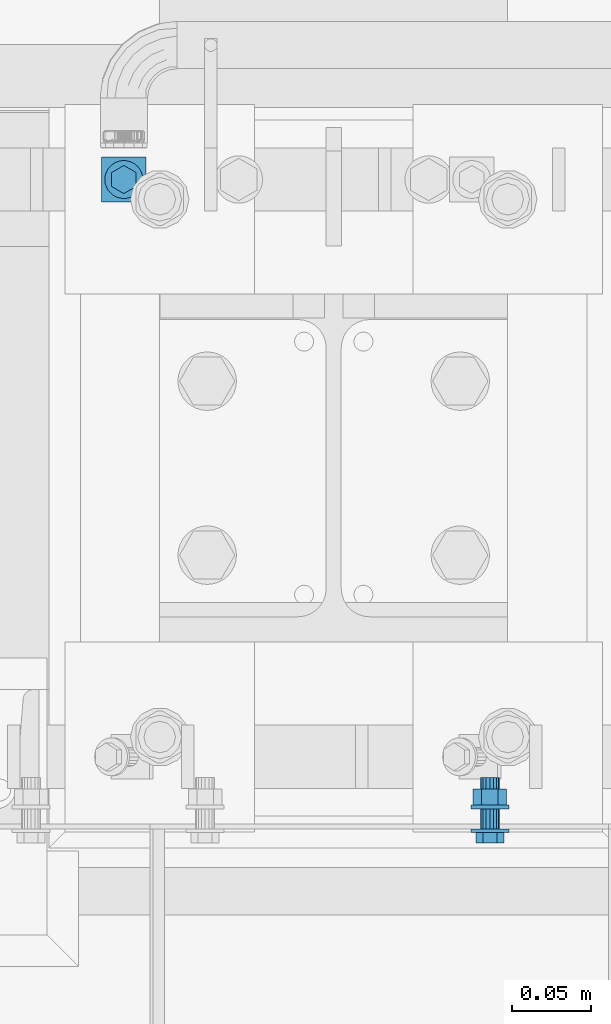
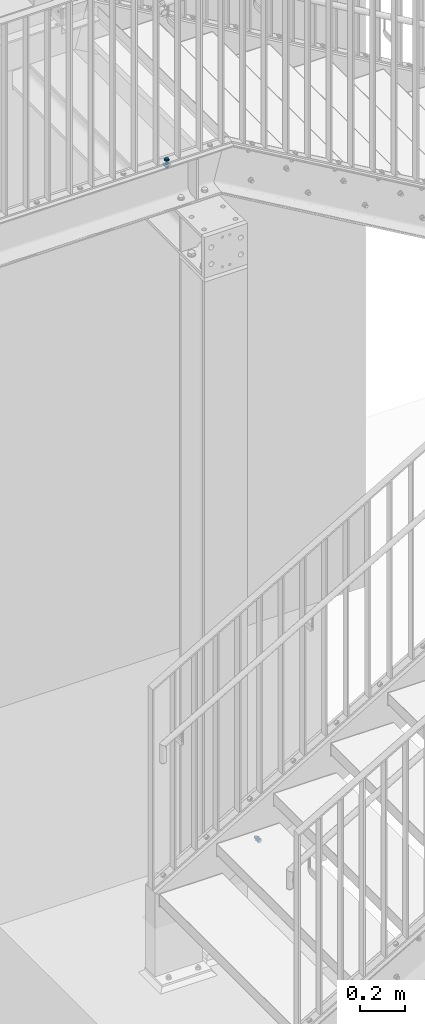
# One storey, part 60 of 145: 2 mechanical fasteners.
"""IFC2X3 building model written with IfcOpenShell, lengths in millimetres."""

from ifc_helpers import new_model, entity, si_unit, converted_unit, origin_with_axes, place, context, project, spatial, faceted_brep, element, save


model = new_model("IFC2X3")

# Units and contexts
model_context = context("Model", 3, precision=1e-09, world=origin_with_axes())
ifc_project = project(units=[si_unit("LENGTHUNIT", "METRE", prefix="MILLI"), si_unit("AREAUNIT", "SQUARE_METRE"), si_unit("VOLUMEUNIT", "CUBIC_METRE"), converted_unit("PLANEANGLEUNIT", "DEGREE", entity("IfcPlaneAngleMeasure", 0.01745329), si_unit("PLANEANGLEUNIT", "RADIAN"), dimensions=[0, 0, 0, 0, 0, 0, 0])], contexts=[model_context])

# Site, building, storey
site_placement = place(None, origin_with_axes())
site = spatial("IfcSite", under=ifc_project, at=site_placement, Name="BZ1 Grund- und Mittelschule 85716 Unterschlei?heim", CompositionType="ELEMENT")
building_placement = place(site_placement, origin_with_axes())
building = spatial("IfcBuilding", under=site, at=building_placement, Name="Struktur 1", CompositionType="ELEMENT")
storey_placement = place(building_placement, origin_with_axes())
storey = spatial("IfcBuildingStorey", under=building, at=storey_placement, Name="Default Storey", CompositionType="ELEMENT", Elevation=0.0)

# Mechanical fasteners
mechanical_fastener_1_placement = place(None, origin_with_axes())
element("IfcMechanicalFastener", 1, at=mechanical_fastener_1_placement, inside=storey, ObjectType="-", NominalDiameter=12.0, NominalLength=45.0, context=model_context, shape_type="Brep", body=[
    faceted_brep([(16950.141490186, -1512.502, 3308.000000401), (16950.141490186, -1512.502, 3310.500000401), (16949.910913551, -1514.843083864, 3310.500000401), (16949.910913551, -1514.843083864, 3308.000000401), (16949.228044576, -1517.094201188, 3310.500000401), (16949.228044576, -1517.094201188, 3308.000000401), (16948.119125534, -1519.168842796, 3310.500000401), (16948.119125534, -1519.168842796, 3308.000000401), (16946.62677156, -1520.987281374, 3310.500000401), (16946.62677156, -1520.987281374, 3308.000000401), (16944.808332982, -1522.479635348, 3310.500000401), (16944.808332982, -1522.479635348, 3308.000000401), (16942.733691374, -1523.58855439, 3310.500000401), (16942.733691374, -1523.58855439, 3308.000000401), (16940.48257405, -1524.271423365, 3310.500000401), (16940.48257405, -1524.271423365, 3308.000000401), (16938.141490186, -1524.502, 3310.500000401), (16938.141490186, -1524.502, 3308.000000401), (16935.800406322, -1524.271423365, 3310.500000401), (16935.800406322, -1524.271423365, 3308.000000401), (16933.549288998, -1523.58855439, 3310.500000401), (16933.549288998, -1523.58855439, 3308.000000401), (16931.47464739, -1522.479635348, 3310.500000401), (16931.47464739, -1522.479635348, 3308.000000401), (16929.656208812, -1520.987281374, 3310.500000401), (16929.656208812, -1520.987281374, 3308.000000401), (16928.163854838, -1519.168842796, 3310.500000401), (16928.163854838, -1519.168842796, 3308.000000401), (16927.054935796, -1517.094201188, 3310.500000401), (16927.054935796, -1517.094201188, 3308.000000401), (16926.372066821, -1514.843083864, 3310.500000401), (16926.372066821, -1514.843083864, 3308.000000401), (16926.141490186, -1512.502, 3310.500000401), (16926.141490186, -1512.502, 3308.000000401), (16926.372066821, -1510.160916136, 3310.500000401), (16926.372066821, -1510.160916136, 3308.000000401), (16927.054935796, -1507.909798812, 3310.500000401), (16927.054935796, -1507.909798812, 3308.000000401), (16928.163854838, -1505.835157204, 3310.500000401), (16928.163854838, -1505.835157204, 3308.000000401), (16929.656208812, -1504.016718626, 3310.500000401), (16929.656208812, -1504.016718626, 3308.000000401), (16931.47464739, -1502.524364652, 3310.500000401), (16931.47464739, -1502.524364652, 3308.000000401), (16933.549288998, -1501.41544561, 3310.500000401), (16933.549288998, -1501.41544561, 3308.000000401), (16935.800406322, -1500.732576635, 3310.500000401), (16935.800406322, -1500.732576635, 3308.000000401), (16938.141490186, -1500.502, 3310.500000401), (16938.141490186, -1500.502, 3308.000000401), (16940.48257405, -1500.732576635, 3310.500000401), (16940.48257405, -1500.732576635, 3308.000000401), (16942.733691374, -1501.41544561, 3310.500000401), (16942.733691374, -1501.41544561, 3308.000000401), (16944.808332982, -1502.524364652, 3310.500000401), (16944.808332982, -1502.524364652, 3308.000000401), (16946.62677156, -1504.016718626, 3310.500000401), (16946.62677156, -1504.016718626, 3308.000000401), (16948.119125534, -1505.835157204, 3310.500000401), (16948.119125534, -1505.835157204, 3308.000000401), (16949.228044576, -1507.909798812, 3310.500000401), (16949.228044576, -1507.909798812, 3308.000000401), (16949.910913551, -1510.160916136, 3310.500000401), (16949.910913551, -1510.160916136, 3308.000000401)], [[[0, 1, 2, 3]], [[3, 2, 4, 5]], [[5, 4, 6, 7]], [[7, 6, 8, 9]], [[9, 8, 10, 11]], [[11, 10, 12, 13]], [[13, 12, 14, 15]], [[15, 14, 16, 17]], [[17, 16, 18, 19]], [[19, 18, 20, 21]], [[21, 20, 22, 23]], [[23, 22, 24, 25]], [[25, 24, 26, 27]], [[27, 26, 28, 29]], [[29, 28, 30, 31]], [[31, 30, 32, 33]], [[33, 32, 34, 35]], [[35, 34, 36, 37]], [[37, 36, 38, 39]], [[39, 38, 40, 41]], [[41, 40, 42, 43]], [[43, 42, 44, 45]], [[45, 44, 46, 47]], [[47, 46, 48, 49]], [[49, 48, 50, 51]], [[51, 50, 52, 53]], [[53, 52, 54, 55]], [[55, 54, 56, 57]], [[57, 56, 58, 59]], [[59, 58, 60, 61]], [[61, 60, 62, 63]], [[63, 62, 1, 0]], [[2, 1, 62, 60, 58, 56, 54, 52, 50, 48, 46, 44, 42, 40, 38, 36, 34, 32, 30, 28, 26, 24, 22, 20, 18, 16, 14, 12, 10, 8, 6, 4]], [[63, 0, 3, 5, 7, 9, 11, 13, 15, 17, 19, 21, 23, 25, 27, 29, 31, 33, 35, 37, 39, 41, 43, 45, 47, 49, 51, 53, 55, 57, 59, 61]]]),
    faceted_brep([(16930.446854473, -1516.9445, 3316.900000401), (16930.446854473, -1516.9445, 3310.500000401), (16938.141490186, -1521.387, 3310.500000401), (16938.141490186, -1521.387, 3316.900000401), (16945.836125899, -1516.9445, 3310.500000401), (16945.836125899, -1516.9445, 3316.900000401), (16945.836125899, -1508.0595, 3310.500000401), (16945.836125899, -1508.0595, 3316.900000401), (16938.141490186, -1503.617, 3310.500000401), (16938.141490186, -1503.617, 3316.900000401), (16930.446854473, -1508.0595, 3310.500000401), (16930.446854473, -1508.0595, 3316.900000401)], [[[0, 1, 2, 3]], [[3, 2, 4, 5]], [[5, 4, 6, 7]], [[7, 6, 8, 9]], [[9, 8, 10, 11]], [[11, 10, 1, 0]], [[3, 5, 7, 9, 11, 0]], [[2, 1, 10, 8, 6, 4]]]),
    faceted_brep([(16944.141490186, -1512.502, 3286.197294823), (16944.141490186, -1512.502, 3308.000000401), (16943.684767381, -1514.798100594, 3308.000000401), (16943.684767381, -1514.798100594, 3286.197294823), (16942.384130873, -1516.744640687, 3308.000000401), (16942.384130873, -1516.744640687, 3286.197294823), (16940.43759078, -1518.045277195, 3308.000000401), (16940.43759078, -1518.045277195, 3286.197294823), (16938.141490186, -1518.502, 3308.000000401), (16938.141490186, -1518.502, 3286.197294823), (16935.845389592, -1518.045277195, 3308.000000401), (16935.845389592, -1518.045277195, 3286.197294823), (16933.898849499, -1516.744640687, 3308.000000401), (16933.898849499, -1516.744640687, 3286.197294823), (16932.598212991, -1514.798100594, 3308.000000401), (16932.598212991, -1514.798100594, 3286.197294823), (16932.141490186, -1512.502, 3308.000000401), (16932.141490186, -1512.502, 3286.197294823), (16932.598212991, -1510.205899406, 3308.000000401), (16932.598212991, -1510.205899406, 3286.197294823), (16933.898849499, -1508.259359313, 3308.000000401), (16933.898849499, -1508.259359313, 3286.197294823), (16935.845389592, -1506.958722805, 3308.000000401), (16935.845389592, -1506.958722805, 3286.197294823), (16938.141490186, -1506.502, 3308.000000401), (16938.141490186, -1506.502, 3286.197294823), (16940.43759078, -1506.958722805, 3308.000000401), (16940.43759078, -1506.958722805, 3286.197294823), (16942.384130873, -1508.259359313, 3308.000000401), (16942.384130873, -1508.259359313, 3286.197294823), (16943.684767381, -1510.205899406, 3308.000000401), (16943.684767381, -1510.205899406, 3286.197294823)], [[[0, 1, 2, 3]], [[3, 2, 4, 5]], [[5, 4, 6, 7]], [[7, 6, 8, 9]], [[9, 8, 10, 11]], [[11, 10, 12, 13]], [[13, 12, 14, 15]], [[15, 14, 16, 17]], [[17, 16, 18, 19]], [[19, 18, 20, 21]], [[21, 20, 22, 23]], [[23, 22, 24, 25]], [[25, 24, 26, 27]], [[27, 26, 28, 29]], [[29, 28, 30, 31]], [[31, 30, 1, 0]], [[2, 1, 30, 28, 26, 24, 22, 20, 18, 16, 14, 12, 10, 8, 6, 4]], [[31, 0, 3, 5, 7, 9, 11, 13, 15, 17, 19, 21, 23, 25, 27, 29]]]),
    faceted_brep([(16923.999354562, -1526.644135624, 3286.197294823), (16923.999354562, -1526.644135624, 3282.197294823), (16952.28362581, -1526.644135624, 3282.197294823), (16952.28362581, -1526.644135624, 3286.197294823), (16952.28362581, -1498.359864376, 3282.197294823), (16952.28362581, -1498.359864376, 3286.197294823), (16923.999354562, -1498.359864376, 3282.197294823), (16923.999354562, -1498.359864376, 3286.197294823)], [[[0, 1, 2, 3]], [[3, 2, 4, 5]], [[5, 4, 6, 7]], [[7, 6, 1, 0]], [[3, 5, 7, 0]], [[2, 1, 6, 4]]]),
    faceted_brep([(16929.004922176, -1517.777, 3282.197294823), (16929.004922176, -1517.777, 3272.197294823), (16938.141490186, -1523.052, 3272.197294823), (16938.141490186, -1523.052, 3282.197294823), (16947.278058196, -1517.777, 3272.197294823), (16947.278058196, -1517.777, 3282.197294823), (16947.278058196, -1507.227, 3272.197294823), (16947.278058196, -1507.227, 3282.197294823), (16938.141490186, -1501.952, 3272.197294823), (16938.141490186, -1501.952, 3282.197294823), (16929.004922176, -1507.227, 3272.197294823), (16929.004922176, -1507.227, 3282.197294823)], [[[0, 1, 2, 3]], [[3, 2, 4, 5]], [[5, 4, 6, 7]], [[7, 6, 8, 9]], [[9, 8, 10, 11]], [[11, 10, 1, 0]], [[3, 5, 7, 9, 11, 0]], [[2, 1, 10, 8, 6, 4]]]),
    faceted_brep([(16944.141490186, -1512.502, 3265.500000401), (16944.141490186, -1512.502, 3272.197294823), (16943.684767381, -1514.798100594, 3272.197294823), (16943.684767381, -1514.798100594, 3265.500000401), (16942.384130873, -1516.744640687, 3272.197294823), (16942.384130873, -1516.744640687, 3265.500000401), (16940.43759078, -1518.045277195, 3272.197294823), (16940.43759078, -1518.045277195, 3265.500000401), (16938.141490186, -1518.502, 3272.197294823), (16938.141490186, -1518.502, 3265.500000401), (16935.845389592, -1518.045277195, 3272.197294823), (16935.845389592, -1518.045277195, 3265.500000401), (16933.898849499, -1516.744640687, 3272.197294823), (16933.898849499, -1516.744640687, 3265.500000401), (16932.598212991, -1514.798100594, 3272.197294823), (16932.598212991, -1514.798100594, 3265.500000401), (16932.141490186, -1512.502, 3272.197294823), (16932.141490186, -1512.502, 3265.500000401), (16932.598212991, -1510.205899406, 3272.197294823), (16932.598212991, -1510.205899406, 3265.500000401), (16933.898849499, -1508.259359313, 3272.197294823), (16933.898849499, -1508.259359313, 3265.500000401), (16935.845389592, -1506.958722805, 3272.197294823), (16935.845389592, -1506.958722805, 3265.500000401), (16938.141490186, -1506.502, 3272.197294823), (16938.141490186, -1506.502, 3265.500000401), (16940.43759078, -1506.958722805, 3272.197294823), (16940.43759078, -1506.958722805, 3265.500000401), (16942.384130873, -1508.259359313, 3272.197294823), (16942.384130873, -1508.259359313, 3265.500000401), (16943.684767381, -1510.205899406, 3272.197294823), (16943.684767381, -1510.205899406, 3265.500000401)], [[[0, 1, 2, 3]], [[3, 2, 4, 5]], [[5, 4, 6, 7]], [[7, 6, 8, 9]], [[9, 8, 10, 11]], [[11, 10, 12, 13]], [[13, 12, 14, 15]], [[15, 14, 16, 17]], [[17, 16, 18, 19]], [[19, 18, 20, 21]], [[21, 20, 22, 23]], [[23, 22, 24, 25]], [[25, 24, 26, 27]], [[27, 26, 28, 29]], [[29, 28, 30, 31]], [[31, 30, 1, 0]], [[2, 1, 30, 28, 26, 24, 22, 20, 18, 16, 14, 12, 10, 8, 6, 4]], [[31, 0, 3, 5, 7, 9, 11, 13, 15, 17, 19, 21, 23, 25, 27, 29]]]),
])
mechanical_fastener_2_placement = place(None, origin_with_axes())
element("IfcMechanicalFastener", 2, at=mechanical_fastener_2_placement, inside=storey, ObjectType="-", NominalDiameter=12.0, NominalLength=35.0, context=model_context, shape_type="Brep", body=[
    faceted_brep([(17169.545399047, -1923.002, -189.727271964), (17169.545399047, -1925.502, -189.727271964), (17167.204315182, -1925.502, -189.496695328), (17167.204315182, -1923.002, -189.496695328), (17164.953197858, -1925.502, -188.813826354), (17164.953197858, -1923.002, -188.813826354), (17162.87855625, -1925.502, -187.704907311), (17162.87855625, -1923.002, -187.704907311), (17161.060117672, -1925.502, -186.212553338), (17161.060117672, -1923.002, -186.212553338), (17159.567763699, -1925.502, -184.39411476), (17159.567763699, -1923.002, -184.39411476), (17158.458844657, -1925.502, -182.319473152), (17158.458844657, -1923.002, -182.319473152), (17157.775975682, -1925.502, -180.068355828), (17157.775975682, -1923.002, -180.068355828), (17157.545399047, -1925.502, -177.727271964), (17157.545399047, -1923.002, -177.727271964), (17157.775975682, -1925.502, -175.386188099), (17157.775975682, -1923.002, -175.386188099), (17158.458844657, -1925.502, -173.135070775), (17158.458844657, -1923.002, -173.135070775), (17159.567763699, -1925.502, -171.060429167), (17159.567763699, -1923.002, -171.060429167), (17161.060117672, -1925.502, -169.241990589), (17161.060117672, -1923.002, -169.241990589), (17162.87855625, -1925.502, -167.749636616), (17162.87855625, -1923.002, -167.749636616), (17164.953197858, -1925.502, -166.640717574), (17164.953197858, -1923.002, -166.640717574), (17167.204315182, -1925.502, -165.957848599), (17167.204315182, -1923.002, -165.957848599), (17169.545399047, -1925.502, -165.727271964), (17169.545399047, -1923.002, -165.727271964), (17171.886482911, -1925.502, -165.957848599), (17171.886482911, -1923.002, -165.957848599), (17174.137600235, -1925.502, -166.640717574), (17174.137600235, -1923.002, -166.640717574), (17176.212241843, -1925.502, -167.749636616), (17176.212241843, -1923.002, -167.749636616), (17178.030680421, -1925.502, -169.241990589), (17178.030680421, -1923.002, -169.241990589), (17179.523034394, -1925.502, -171.060429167), (17179.523034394, -1923.002, -171.060429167), (17180.631953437, -1925.502, -173.135070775), (17180.631953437, -1923.002, -173.135070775), (17181.314822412, -1925.502, -175.386188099), (17181.314822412, -1923.002, -175.386188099), (17181.545399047, -1925.502, -177.727271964), (17181.545399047, -1923.002, -177.727271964), (17181.314822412, -1925.502, -180.068355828), (17181.314822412, -1923.002, -180.068355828), (17180.631953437, -1925.502, -182.319473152), (17180.631953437, -1923.002, -182.319473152), (17179.523034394, -1925.502, -184.39411476), (17179.523034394, -1923.002, -184.39411476), (17178.030680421, -1925.502, -186.212553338), (17178.030680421, -1923.002, -186.212553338), (17176.212241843, -1925.502, -187.704907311), (17176.212241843, -1923.002, -187.704907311), (17174.137600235, -1925.502, -188.813826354), (17174.137600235, -1923.002, -188.813826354), (17171.886482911, -1925.502, -189.496695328), (17171.886482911, -1923.002, -189.496695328)], [[[0, 1, 2, 3]], [[3, 2, 4, 5]], [[5, 4, 6, 7]], [[7, 6, 8, 9]], [[9, 8, 10, 11]], [[11, 10, 12, 13]], [[13, 12, 14, 15]], [[15, 14, 16, 17]], [[17, 16, 18, 19]], [[19, 18, 20, 21]], [[21, 20, 22, 23]], [[23, 22, 24, 25]], [[25, 24, 26, 27]], [[27, 26, 28, 29]], [[29, 28, 30, 31]], [[31, 30, 32, 33]], [[33, 32, 34, 35]], [[35, 34, 36, 37]], [[37, 36, 38, 39]], [[39, 38, 40, 41]], [[41, 40, 42, 43]], [[43, 42, 44, 45]], [[45, 44, 46, 47]], [[47, 46, 48, 49]], [[49, 48, 50, 51]], [[51, 50, 52, 53]], [[53, 52, 54, 55]], [[55, 54, 56, 57]], [[57, 56, 58, 59]], [[59, 58, 60, 61]], [[61, 60, 62, 63]], [[63, 62, 1, 0]], [[2, 1, 62, 60, 58, 56, 54, 52, 50, 48, 46, 44, 42, 40, 38, 36, 34, 32, 30, 28, 26, 24, 22, 20, 18, 16, 14, 12, 10, 8, 6, 4]], [[63, 0, 3, 5, 7, 9, 11, 13, 15, 17, 19, 21, 23, 25, 27, 29, 31, 33, 35, 37, 39, 41, 43, 45, 47, 49, 51, 53, 55, 57, 59, 61]]]),
    faceted_brep([(17165.102899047, -1931.902, -170.032636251), (17165.102899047, -1925.502, -170.032636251), (17160.660399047, -1925.502, -177.727271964), (17160.660399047, -1931.902, -177.727271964), (17165.102899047, -1925.502, -185.421907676), (17165.102899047, -1931.902, -185.421907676), (17173.987899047, -1925.502, -185.421907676), (17173.987899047, -1931.902, -185.421907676), (17178.430399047, -1925.502, -177.727271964), (17178.430399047, -1931.902, -177.727271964), (17173.987899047, -1925.502, -170.032636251), (17173.987899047, -1931.902, -170.032636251)], [[[0, 1, 2, 3]], [[3, 2, 4, 5]], [[5, 4, 6, 7]], [[7, 6, 8, 9]], [[9, 8, 10, 11]], [[11, 10, 1, 0]], [[3, 5, 7, 9, 11, 0]], [[2, 1, 10, 8, 6, 4]]]),
    faceted_brep([(17169.545399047, -1910.502, -183.727271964), (17169.545399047, -1923.002, -183.727271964), (17167.249298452, -1923.002, -183.270549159), (17167.249298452, -1910.502, -183.270549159), (17165.30275836, -1923.002, -181.969912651), (17165.30275836, -1910.502, -181.969912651), (17164.002121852, -1923.002, -180.023372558), (17164.002121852, -1910.502, -180.023372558), (17163.545399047, -1923.002, -177.727271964), (17163.545399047, -1910.502, -177.727271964), (17164.002121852, -1923.002, -175.431171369), (17164.002121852, -1910.502, -175.431171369), (17165.30275836, -1923.002, -173.484631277), (17165.30275836, -1910.502, -173.484631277), (17167.249298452, -1923.002, -172.183994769), (17167.249298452, -1910.502, -172.183994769), (17169.545399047, -1923.002, -171.727271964), (17169.545399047, -1910.502, -171.727271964), (17171.841499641, -1923.002, -172.183994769), (17171.841499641, -1910.502, -172.183994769), (17173.788039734, -1923.002, -173.484631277), (17173.788039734, -1910.502, -173.484631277), (17175.088676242, -1923.002, -175.431171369), (17175.088676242, -1910.502, -175.431171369), (17175.545399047, -1923.002, -177.727271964), (17175.545399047, -1910.502, -177.727271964), (17175.088676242, -1923.002, -180.023372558), (17175.088676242, -1910.502, -180.023372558), (17173.788039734, -1923.002, -181.969912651), (17173.788039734, -1910.502, -181.969912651), (17171.841499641, -1923.002, -183.270549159), (17171.841499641, -1910.502, -183.270549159)], [[[0, 1, 2, 3]], [[3, 2, 4, 5]], [[5, 4, 6, 7]], [[7, 6, 8, 9]], [[9, 8, 10, 11]], [[11, 10, 12, 13]], [[13, 12, 14, 15]], [[15, 14, 16, 17]], [[17, 16, 18, 19]], [[19, 18, 20, 21]], [[21, 20, 22, 23]], [[23, 22, 24, 25]], [[25, 24, 26, 27]], [[27, 26, 28, 29]], [[29, 28, 30, 31]], [[31, 30, 1, 0]], [[2, 1, 30, 28, 26, 24, 22, 20, 18, 16, 14, 12, 10, 8, 6, 4]], [[31, 0, 3, 5, 7, 9, 11, 13, 15, 17, 19, 21, 23, 25, 27, 29]]]),
    faceted_brep([(17169.545399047, -1908.002, -189.727271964), (17169.545399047, -1910.502, -189.727271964), (17167.204315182, -1910.502, -189.496695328), (17167.204315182, -1908.002, -189.496695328), (17164.953197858, -1910.502, -188.813826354), (17164.953197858, -1908.002, -188.813826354), (17162.87855625, -1910.502, -187.704907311), (17162.87855625, -1908.002, -187.704907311), (17161.060117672, -1910.502, -186.212553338), (17161.060117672, -1908.002, -186.212553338), (17159.567763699, -1910.502, -184.39411476), (17159.567763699, -1908.002, -184.39411476), (17158.458844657, -1910.502, -182.319473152), (17158.458844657, -1908.002, -182.319473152), (17157.775975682, -1910.502, -180.068355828), (17157.775975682, -1908.002, -180.068355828), (17157.545399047, -1910.502, -177.727271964), (17157.545399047, -1908.002, -177.727271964), (17157.775975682, -1910.502, -175.386188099), (17157.775975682, -1908.002, -175.386188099), (17158.458844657, -1910.502, -173.135070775), (17158.458844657, -1908.002, -173.135070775), (17159.567763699, -1910.502, -171.060429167), (17159.567763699, -1908.002, -171.060429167), (17161.060117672, -1910.502, -169.241990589), (17161.060117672, -1908.002, -169.241990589), (17162.87855625, -1910.502, -167.749636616), (17162.87855625, -1908.002, -167.749636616), (17164.953197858, -1910.502, -166.640717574), (17164.953197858, -1908.002, -166.640717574), (17167.204315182, -1910.502, -165.957848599), (17167.204315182, -1908.002, -165.957848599), (17169.545399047, -1910.502, -165.727271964), (17169.545399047, -1908.002, -165.727271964), (17171.886482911, -1910.502, -165.957848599), (17171.886482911, -1908.002, -165.957848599), (17174.137600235, -1910.502, -166.640717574), (17174.137600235, -1908.002, -166.640717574), (17176.212241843, -1910.502, -167.749636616), (17176.212241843, -1908.002, -167.749636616), (17178.030680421, -1910.502, -169.241990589), (17178.030680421, -1908.002, -169.241990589), (17179.523034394, -1910.502, -171.060429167), (17179.523034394, -1908.002, -171.060429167), (17180.631953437, -1910.502, -173.135070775), (17180.631953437, -1908.002, -173.135070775), (17181.314822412, -1910.502, -175.386188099), (17181.314822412, -1908.002, -175.386188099), (17181.545399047, -1910.502, -177.727271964), (17181.545399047, -1908.002, -177.727271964), (17181.314822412, -1910.502, -180.068355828), (17181.314822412, -1908.002, -180.068355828), (17180.631953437, -1910.502, -182.319473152), (17180.631953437, -1908.002, -182.319473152), (17179.523034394, -1910.502, -184.39411476), (17179.523034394, -1908.002, -184.39411476), (17178.030680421, -1910.502, -186.212553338), (17178.030680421, -1908.002, -186.212553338), (17176.212241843, -1910.502, -187.704907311), (17176.212241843, -1908.002, -187.704907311), (17174.137600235, -1910.502, -188.813826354), (17174.137600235, -1908.002, -188.813826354), (17171.886482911, -1910.502, -189.496695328), (17171.886482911, -1908.002, -189.496695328)], [[[0, 1, 2, 3]], [[3, 2, 4, 5]], [[5, 4, 6, 7]], [[7, 6, 8, 9]], [[9, 8, 10, 11]], [[11, 10, 12, 13]], [[13, 12, 14, 15]], [[15, 14, 16, 17]], [[17, 16, 18, 19]], [[19, 18, 20, 21]], [[21, 20, 22, 23]], [[23, 22, 24, 25]], [[25, 24, 26, 27]], [[27, 26, 28, 29]], [[29, 28, 30, 31]], [[31, 30, 32, 33]], [[33, 32, 34, 35]], [[35, 34, 36, 37]], [[37, 36, 38, 39]], [[39, 38, 40, 41]], [[41, 40, 42, 43]], [[43, 42, 44, 45]], [[45, 44, 46, 47]], [[47, 46, 48, 49]], [[49, 48, 50, 51]], [[51, 50, 52, 53]], [[53, 52, 54, 55]], [[55, 54, 56, 57]], [[57, 56, 58, 59]], [[59, 58, 60, 61]], [[61, 60, 62, 63]], [[63, 62, 1, 0]], [[2, 1, 62, 60, 58, 56, 54, 52, 50, 48, 46, 44, 42, 40, 38, 36, 34, 32, 30, 28, 26, 24, 22, 20, 18, 16, 14, 12, 10, 8, 6, 4]], [[63, 0, 3, 5, 7, 9, 11, 13, 15, 17, 19, 21, 23, 25, 27, 29, 31, 33, 35, 37, 39, 41, 43, 45, 47, 49, 51, 53, 55, 57, 59, 61]]]),
    faceted_brep([(17164.270399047, -1908.002, -168.590703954), (17164.270399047, -1898.002, -168.590703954), (17158.995399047, -1898.002, -177.727271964), (17158.995399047, -1908.002, -177.727271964), (17164.270399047, -1898.002, -186.863839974), (17164.270399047, -1908.002, -186.863839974), (17174.820399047, -1898.002, -186.863839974), (17174.820399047, -1908.002, -186.863839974), (17180.095399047, -1898.002, -177.727271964), (17180.095399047, -1908.002, -177.727271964), (17174.820399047, -1898.002, -168.590703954), (17174.820399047, -1908.002, -168.590703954)], [[[0, 1, 2, 3]], [[3, 2, 4, 5]], [[5, 4, 6, 7]], [[7, 6, 8, 9]], [[9, 8, 10, 11]], [[11, 10, 1, 0]], [[3, 5, 7, 9, 11, 0]], [[2, 1, 10, 8, 6, 4]]]),
    faceted_brep([(17169.545399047, -1890.502, -183.727271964), (17169.545399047, -1898.002, -183.727271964), (17167.249298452, -1898.002, -183.270549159), (17167.249298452, -1890.502, -183.270549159), (17165.30275836, -1898.002, -181.969912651), (17165.30275836, -1890.502, -181.969912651), (17164.002121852, -1898.002, -180.023372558), (17164.002121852, -1890.502, -180.023372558), (17163.545399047, -1898.002, -177.727271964), (17163.545399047, -1890.502, -177.727271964), (17164.002121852, -1898.002, -175.431171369), (17164.002121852, -1890.502, -175.431171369), (17165.30275836, -1898.002, -173.484631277), (17165.30275836, -1890.502, -173.484631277), (17167.249298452, -1898.002, -172.183994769), (17167.249298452, -1890.502, -172.183994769), (17169.545399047, -1898.002, -171.727271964), (17169.545399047, -1890.502, -171.727271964), (17171.841499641, -1898.002, -172.183994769), (17171.841499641, -1890.502, -172.183994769), (17173.788039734, -1898.002, -173.484631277), (17173.788039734, -1890.502, -173.484631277), (17175.088676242, -1898.002, -175.431171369), (17175.088676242, -1890.502, -175.431171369), (17175.545399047, -1898.002, -177.727271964), (17175.545399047, -1890.502, -177.727271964), (17175.088676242, -1898.002, -180.023372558), (17175.088676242, -1890.502, -180.023372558), (17173.788039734, -1898.002, -181.969912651), (17173.788039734, -1890.502, -181.969912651), (17171.841499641, -1898.002, -183.270549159), (17171.841499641, -1890.502, -183.270549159)], [[[0, 1, 2, 3]], [[3, 2, 4, 5]], [[5, 4, 6, 7]], [[7, 6, 8, 9]], [[9, 8, 10, 11]], [[11, 10, 12, 13]], [[13, 12, 14, 15]], [[15, 14, 16, 17]], [[17, 16, 18, 19]], [[19, 18, 20, 21]], [[21, 20, 22, 23]], [[23, 22, 24, 25]], [[25, 24, 26, 27]], [[27, 26, 28, 29]], [[29, 28, 30, 31]], [[31, 30, 1, 0]], [[2, 1, 30, 28, 26, 24, 22, 20, 18, 16, 14, 12, 10, 8, 6, 4]], [[31, 0, 3, 5, 7, 9, 11, 13, 15, 17, 19, 21, 23, 25, 27, 29]]]),
])

save(model, "model.ifc")
